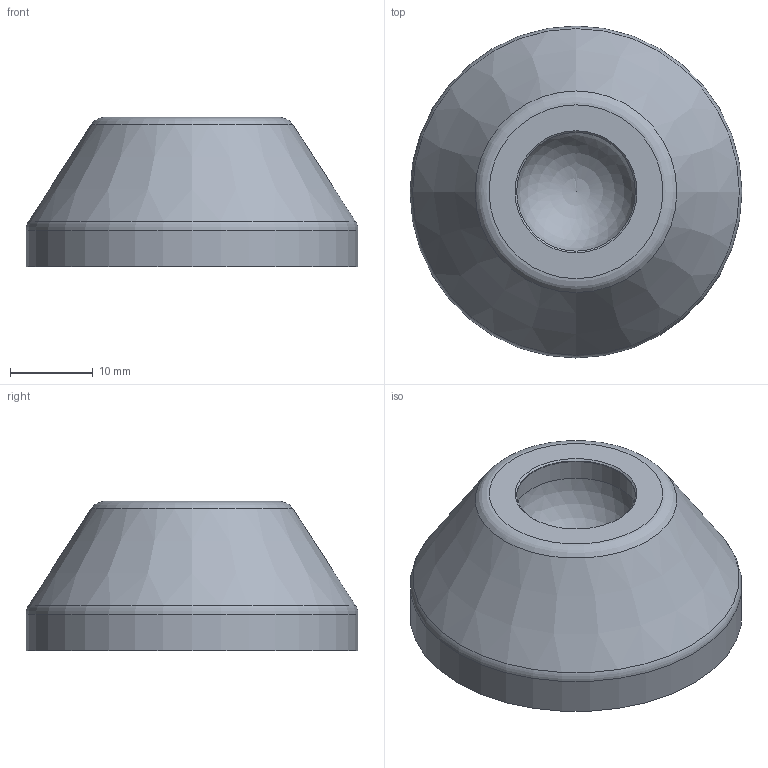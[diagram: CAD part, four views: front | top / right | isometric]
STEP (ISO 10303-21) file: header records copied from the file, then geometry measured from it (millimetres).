
FILE_DESCRIPTION(('STEP AP203'), '1');
FILE_NAME('A00015.1040 _ Îñíîâàíèÿ øàðíèðíûõ îïîð èç ïëàñòèêà, 20°', '', ('UNSPECIFIED'), ('UNSPECIFIED'), 'C3D Converter', 'C3D Toolkit', '');
FILE_SCHEMA(('CONFIG_CONTROL_DESIGN'));
Length unit declared in the file: millimetre
Products named in the file (1): A00015.1040
Bounding box: 40 x 40 x 18 mm (x, y, z)
Volume: 9674.3 mm3; surface area: 6133.5 mm2
Topology: 1 solids, 1 shells, 106 faces, 298 edges, 196 vertices
Faces by surface type: plane 60, cylinder 22, torus 20, cone 3, sphere 1
Full cylindrical faces by diameter (mm): 14.3 x1, 15 x2, 15.5 x1, 32 x1, 40 x1
Entity records: 4993 total; most frequent: CARTESIAN_POINT 2273, ORIENTED_EDGE 566, DIRECTION 556, EDGE_CURVE 283, AXIS2_PLACEMENT_3D 214, VERTEX_POINT 195, LINE 128, VECTOR 128
